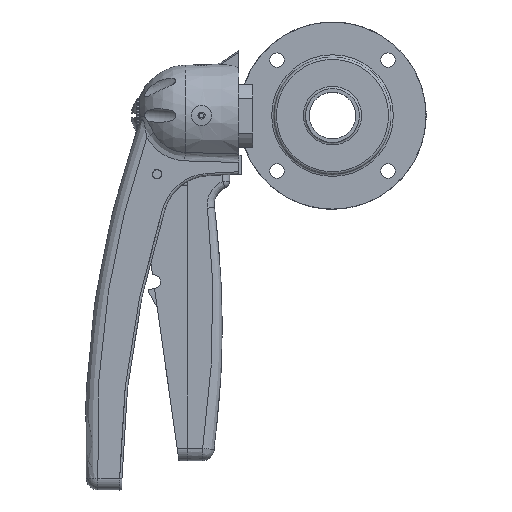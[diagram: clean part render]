
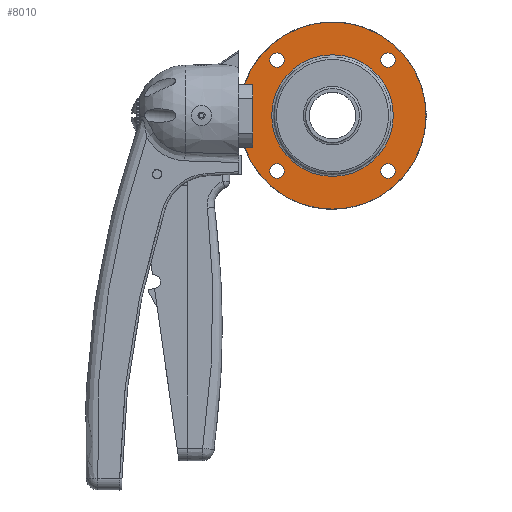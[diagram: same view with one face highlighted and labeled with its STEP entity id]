
A CAD part, top view. The second image highlights one B-rep face of the part: STEP entity #8010.
In plain terms, the highlighted planar face has unit normal (0, 0, 1) as drawn and (1, 0, 0) by its records, which use the part's own axes.
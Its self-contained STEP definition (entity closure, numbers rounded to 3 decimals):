
#2000=FACE_BOUND('',#2885,.T.);
#2001=FACE_BOUND('',#2886,.T.);
#2002=FACE_BOUND('',#2887,.T.);
#2003=FACE_BOUND('',#2888,.T.);
#2004=FACE_BOUND('',#2889,.T.);
#2424=FACE_OUTER_BOUND('',#2884,.T.);
#2884=EDGE_LOOP('',(#7307,#7308));
#2885=EDGE_LOOP('',(#7309));
#2886=EDGE_LOOP('',(#7310));
#2887=EDGE_LOOP('',(#7311));
#2888=EDGE_LOOP('',(#7312));
#2889=EDGE_LOOP('',(#7313,#7314));
#3170=CIRCLE('',#8733,3.1);
#3173=CIRCLE('',#8737,3.1);
#3176=CIRCLE('',#8741,3.1);
#3179=CIRCLE('',#8745,3.1);
#3186=CIRCLE('',#8758,40.);
#3187=CIRCLE('',#8759,40.);
#3189=CIRCLE('',#8762,26.);
#3190=CIRCLE('',#8763,26.);
#3906=VERTEX_POINT('',#22678);
#3909=VERTEX_POINT('',#22686);
#3912=VERTEX_POINT('',#22694);
#3915=VERTEX_POINT('',#22702);
#3931=VERTEX_POINT('',#22816);
#3932=VERTEX_POINT('',#22817);
#3933=VERTEX_POINT('',#22823);
#3934=VERTEX_POINT('',#22824);
#5034=EDGE_CURVE('',#3906,#3906,#3170,.T.);
#5038=EDGE_CURVE('',#3909,#3909,#3173,.T.);
#5042=EDGE_CURVE('',#3912,#3912,#3176,.T.);
#5046=EDGE_CURVE('',#3915,#3915,#3179,.T.);
#5066=EDGE_CURVE('',#3931,#3932,#3186,.T.);
#5067=EDGE_CURVE('',#3932,#3931,#3187,.T.);
#5070=EDGE_CURVE('',#3933,#3934,#3189,.T.);
#5071=EDGE_CURVE('',#3934,#3933,#3190,.T.);
#7307=ORIENTED_EDGE('',*,*,#5066,.T.);
#7308=ORIENTED_EDGE('',*,*,#5067,.T.);
#7309=ORIENTED_EDGE('',*,*,#5034,.T.);
#7310=ORIENTED_EDGE('',*,*,#5038,.T.);
#7311=ORIENTED_EDGE('',*,*,#5042,.T.);
#7312=ORIENTED_EDGE('',*,*,#5046,.T.);
#7313=ORIENTED_EDGE('',*,*,#5070,.F.);
#7314=ORIENTED_EDGE('',*,*,#5071,.F.);
#7591=PLANE('',#8761);
#8010=ADVANCED_FACE('',(#2424,#2000,#2001,#2002,#2003,#2004),#7591,.T.);
#8733=AXIS2_PLACEMENT_3D('',#22680,#10587,#10588);
#8737=AXIS2_PLACEMENT_3D('',#22688,#10596,#10597);
#8741=AXIS2_PLACEMENT_3D('',#22696,#10605,#10606);
#8745=AXIS2_PLACEMENT_3D('',#22704,#10614,#10615);
#8758=AXIS2_PLACEMENT_3D('',#22818,#10646,#10647);
#8759=AXIS2_PLACEMENT_3D('',#22819,#10648,#10649);
#8761=AXIS2_PLACEMENT_3D('',#22822,#10653,#10654);
#8762=AXIS2_PLACEMENT_3D('',#22825,#10655,#10656);
#8763=AXIS2_PLACEMENT_3D('',#22826,#10657,#10658);
#10587=DIRECTION('center_axis',(-1.,0.,0.));
#10588=DIRECTION('ref_axis',(0.,1.,0.));
#10596=DIRECTION('center_axis',(-1.,0.,0.));
#10597=DIRECTION('ref_axis',(0.,0.,-1.));
#10605=DIRECTION('center_axis',(-1.,0.,0.));
#10606=DIRECTION('ref_axis',(0.,-1.,0.));
#10614=DIRECTION('center_axis',(-1.,0.,0.));
#10615=DIRECTION('ref_axis',(0.,0.,1.));
#10646=DIRECTION('center_axis',(1.,0.,0.));
#10647=DIRECTION('ref_axis',(0.,0.,-1.));
#10648=DIRECTION('center_axis',(1.,0.,0.));
#10649=DIRECTION('ref_axis',(0.,0.,-1.));
#10653=DIRECTION('center_axis',(1.,0.,0.));
#10654=DIRECTION('ref_axis',(0.,0.,-1.));
#10655=DIRECTION('center_axis',(1.,0.,0.));
#10656=DIRECTION('ref_axis',(0.,0.,-1.));
#10657=DIRECTION('center_axis',(1.,0.,0.));
#10658=DIRECTION('ref_axis',(0.,0.,-1.));
#22678=CARTESIAN_POINT('',(10.,20.588,-23.688));
#22680=CARTESIAN_POINT('Origin',(10.,23.688,-23.688));
#22686=CARTESIAN_POINT('',(10.,-23.688,-20.588));
#22688=CARTESIAN_POINT('Origin',(10.,-23.688,-23.688));
#22694=CARTESIAN_POINT('',(10.,-20.588,23.688));
#22696=CARTESIAN_POINT('Origin',(10.,-23.688,23.688));
#22702=CARTESIAN_POINT('',(10.,23.688,20.588));
#22704=CARTESIAN_POINT('Origin',(10.,23.688,23.688));
#22816=CARTESIAN_POINT('',(10.,40.,0.));
#22817=CARTESIAN_POINT('',(10.,-40.,0.));
#22818=CARTESIAN_POINT('Origin',(10.,0.,0.));
#22819=CARTESIAN_POINT('Origin',(10.,0.,0.));
#22822=CARTESIAN_POINT('Origin',(10.,26.,0.));
#22823=CARTESIAN_POINT('',(10.,26.,0.));
#22824=CARTESIAN_POINT('',(10.,0.,26.));
#22825=CARTESIAN_POINT('Origin',(10.,0.,0.));
#22826=CARTESIAN_POINT('Origin',(10.,0.,0.));
